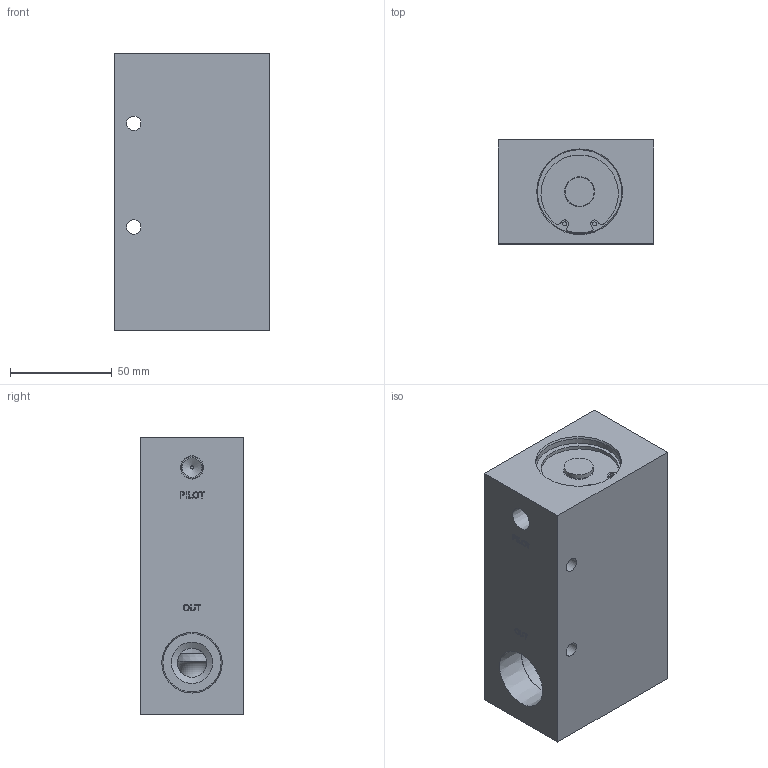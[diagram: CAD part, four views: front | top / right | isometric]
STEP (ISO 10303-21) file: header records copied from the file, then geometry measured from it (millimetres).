
FILE_DESCRIPTION(/* description */ (''),/* implementation_level */ '2;1');
FILE_NAME(/* name */ 'L:\ALADCO\Advertising\3D Content\Valves\Step Files - 2014-11-19 thru Present\32010X.stp',/* time_stamp */ '2014-11-19T14:49:14-06:00',/* author */ ('dmatz'),/* organization */ ('Aladdin Eng. & Manf. Inc.'),/* preprocessor_version */ 'ST-DEVELOPER v15.2',/* originating_system */ 'Autodesk Inventor 2014',/* authorisation */ '0 in^3');
FILE_SCHEMA (('AUTOMOTIVE_DESIGN { 1 0 10303 214 3 1 1 }'));
Length unit declared in the file: inch
Products named in the file (9): 301235; 311050; 1.312-1.25; 311058; 321016; 1.625-1.562; 311057; 311066; 320101
Bounding box: 76.2 x 50.8 x 135.88 mm (x, y, z)
Volume: 408494.8 mm3; surface area: 72036.5 mm2
Topology: 6 solids, 6 shells, 220 faces, 504 edges, 333 vertices
Faces by surface type: plane 113, cylinder 50, bspline 26, cone 19, torus 12
Full cylindrical faces by diameter (mm): 1.499 x1, 1.93 x4, 3.302 x1, 6.858 x1, 7.112 x2, 10.719 x1, 11.1 x1, 14.224 x2, 14.249 x1, 14.287 x2, 17.501 x1, 18.034 x1, 19.05 x2, 20.015 x1, 28.575 x2, 29.21 x1, 31.75 x1, 33.274 x2, 33.325 x3, 35.458 x1, 37.16 x1, 38.1 x1, 41.224 x2, 41.275 x2, 43.815 x1
Entity records: 6532 total; most frequent: CARTESIAN_POINT 1629, DIRECTION 904, ORIENTED_EDGE 824, EDGE_CURVE 412, EDGE_LOOP 348, AXIS2_PLACEMENT_3D 340, VERTEX_POINT 310, LINE 224
